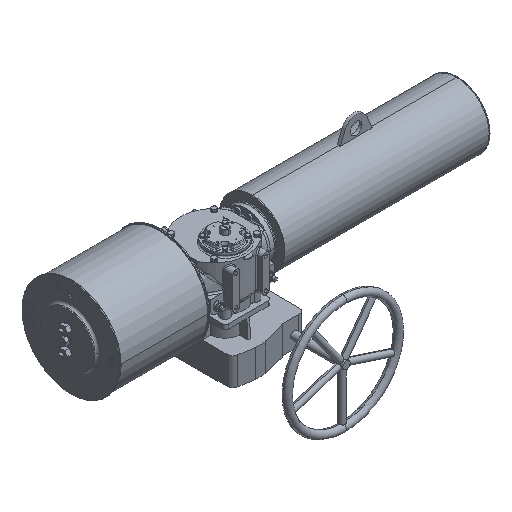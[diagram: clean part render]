
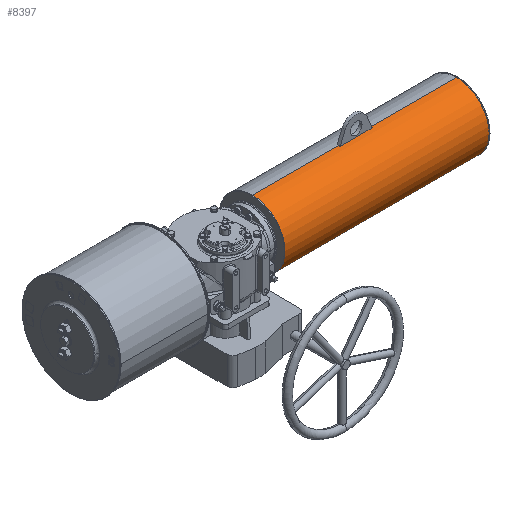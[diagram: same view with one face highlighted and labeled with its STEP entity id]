
A CAD part, isometric view. The second image highlights one B-rep face of the part: STEP entity #8397.
In plain terms, the highlighted cylindrical face has radius 109.5 mm (diameter 219 mm), a partial arc.
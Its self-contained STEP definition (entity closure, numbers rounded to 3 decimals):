
#428 = EDGE_LOOP ( 'NONE', ( #12345, #21108, #53958, #30284, #54234, #37797, #90213, #81079, #14311, #53254 ) ) ;
#3211 = DIRECTION ( 'NONE',  ( 1., 0., 0. ) ) ;
#3231 = EDGE_CURVE ( 'NONE', #22932, #83668, #87967, .T. ) ;
#5493 = LINE ( 'NONE', #13762, #77377 ) ;
#7117 = VERTEX_POINT ( 'NONE', #70453 ) ;
#7198 = CARTESIAN_POINT ( 'NONE',  ( 153., -87., 57.5 ) ) ;
#8397 = ADVANCED_FACE ( 'NONE', ( #12103 ), #40741, .T. ) ;
#9055 = CARTESIAN_POINT ( 'NONE',  ( 444., 17.5, 166.886 ) ) ;
#10733 = EDGE_CURVE ( 'NONE', #86969, #24581, #5493, .T. ) ;
#10925 = LINE ( 'NONE', #88439, #29662 ) ;
#11462 = CARTESIAN_POINT ( 'NONE',  ( 843., 22.5, -52. ) ) ;
#11653 = CARTESIAN_POINT ( 'NONE',  ( 839.5, 22.5, 57.5 ) ) ;
#12103 = FACE_OUTER_BOUND ( 'NONE', #428, .T. ) ;
#12345 = ORIENTED_EDGE ( 'NONE', *, *, #67583, .T. ) ;
#13762 = CARTESIAN_POINT ( 'NONE',  ( 839.5, 17.5, 166.886 ) ) ;
#14072 = EDGE_CURVE ( 'NONE', #66115, #89348, #45810, .T. ) ;
#14311 = ORIENTED_EDGE ( 'NONE', *, *, #62543, .T. ) ;
#14938 = CIRCLE ( 'NONE', #66548, 109.5 ) ;
#17111 = AXIS2_PLACEMENT_3D ( 'NONE', #56398, #62096, #60732 ) ;
#17275 = DIRECTION ( 'NONE',  ( -1., 0., 0. ) ) ;
#17544 = CARTESIAN_POINT ( 'NONE',  ( 552., 22.5, 57.5 ) ) ;
#18651 = DIRECTION ( 'NONE',  ( 0., 1., 0. ) ) ;
#19047 = DIRECTION ( 'NONE',  ( -1., 0., 0. ) ) ;
#20053 = DIRECTION ( 'NONE',  ( 0., 0., -1. ) ) ;
#21108 = ORIENTED_EDGE ( 'NONE', *, *, #3231, .T. ) ;
#22067 = CARTESIAN_POINT ( 'NONE',  ( 552., 17.5, 166.886 ) ) ;
#22932 = VERTEX_POINT ( 'NONE', #67963 ) ;
#23095 = EDGE_CURVE ( 'NONE', #7117, #86969, #50806, .T. ) ;
#24581 = VERTEX_POINT ( 'NONE', #9055 ) ;
#26981 = EDGE_CURVE ( 'NONE', #50463, #62910, #89643, .T. ) ;
#28253 = CARTESIAN_POINT ( 'NONE',  ( 839.5, 22.5, 167. ) ) ;
#28949 = CARTESIAN_POINT ( 'NONE',  ( 843., 22.5, 167. ) ) ;
#29662 = VECTOR ( 'NONE', #30788, 1000. ) ;
#30284 = ORIENTED_EDGE ( 'NONE', *, *, #23095, .T. ) ;
#30788 = DIRECTION ( 'NONE',  ( -1., 0., 0. ) ) ;
#34579 = AXIS2_PLACEMENT_3D ( 'NONE', #17544, #3211, #81222 ) ;
#36984 = AXIS2_PLACEMENT_3D ( 'NONE', #90464, #54080, #82208 ) ;
#37797 = ORIENTED_EDGE ( 'NONE', *, *, #54881, .T. ) ;
#40741 = CYLINDRICAL_SURFACE ( 'NONE', #67027, 109.5 ) ;
#44202 = CARTESIAN_POINT ( 'NONE',  ( 153., 22.5, 167. ) ) ;
#45157 = VECTOR ( 'NONE', #48594, 1000. ) ;
#45810 = CIRCLE ( 'NONE', #36984, 109.5 ) ;
#46347 = CARTESIAN_POINT ( 'NONE',  ( 444., 22.5, 57.5 ) ) ;
#47641 = DIRECTION ( 'NONE',  ( -1., 0., 0. ) ) ;
#48126 = CARTESIAN_POINT ( 'NONE',  ( 153., 22.5, 57.5 ) ) ;
#48594 = DIRECTION ( 'NONE',  ( -1., 0., 0. ) ) ;
#49763 = VERTEX_POINT ( 'NONE', #73221 ) ;
#50463 = VERTEX_POINT ( 'NONE', #11462 ) ;
#50806 = CIRCLE ( 'NONE', #34579, 109.5 ) ;
#53254 = ORIENTED_EDGE ( 'NONE', *, *, #26981, .F. ) ;
#53958 = ORIENTED_EDGE ( 'NONE', *, *, #84013, .T. ) ;
#54080 = DIRECTION ( 'NONE',  ( 1., 0., 0. ) ) ;
#54234 = ORIENTED_EDGE ( 'NONE', *, *, #10733, .T. ) ;
#54881 = EDGE_CURVE ( 'NONE', #24581, #49763, #67419, .T. ) ;
#56398 = CARTESIAN_POINT ( 'NONE',  ( 843., 22.5, 57.5 ) ) ;
#59364 = CARTESIAN_POINT ( 'NONE',  ( 153., 22.5, -52. ) ) ;
#60732 = DIRECTION ( 'NONE',  ( 0., 0., -1. ) ) ;
#61829 = DIRECTION ( 'NONE',  ( -1., 0., 0. ) ) ;
#62096 = DIRECTION ( 'NONE',  ( -1., 0., 0. ) ) ;
#62446 = LINE ( 'NONE', #28253, #45157 ) ;
#62543 = EDGE_CURVE ( 'NONE', #89348, #62910, #14938, .T. ) ;
#62910 = VERTEX_POINT ( 'NONE', #59364 ) ;
#66115 = VERTEX_POINT ( 'NONE', #44202 ) ;
#66548 = AXIS2_PLACEMENT_3D ( 'NONE', #48126, #74916, #68446 ) ;
#67027 = AXIS2_PLACEMENT_3D ( 'NONE', #11653, #47641, #82265 ) ;
#67419 = CIRCLE ( 'NONE', #74787, 109.5 ) ;
#67583 = EDGE_CURVE ( 'NONE', #50463, #22932, #71688, .T. ) ;
#67963 = CARTESIAN_POINT ( 'NONE',  ( 843., -87., 57.5 ) ) ;
#68446 = DIRECTION ( 'NONE',  ( 0., 0., -1. ) ) ;
#69988 = VECTOR ( 'NONE', #19047, 1000. ) ;
#70453 = CARTESIAN_POINT ( 'NONE',  ( 552., 22.5, 167. ) ) ;
#70536 = DIRECTION ( 'NONE',  ( -1., 0., 0. ) ) ;
#71688 = CIRCLE ( 'NONE', #17111, 109.5 ) ;
#71805 = AXIS2_PLACEMENT_3D ( 'NONE', #77448, #70536, #20053 ) ;
#72089 = EDGE_CURVE ( 'NONE', #49763, #66115, #10925, .T. ) ;
#73221 = CARTESIAN_POINT ( 'NONE',  ( 444., 22.5, 167. ) ) ;
#74787 = AXIS2_PLACEMENT_3D ( 'NONE', #46347, #17275, #18651 ) ;
#74916 = DIRECTION ( 'NONE',  ( 1., 0., 0. ) ) ;
#76288 = CARTESIAN_POINT ( 'NONE',  ( 839.5, 22.5, -52. ) ) ;
#77377 = VECTOR ( 'NONE', #61829, 1000. ) ;
#77448 = CARTESIAN_POINT ( 'NONE',  ( 843., 22.5, 57.5 ) ) ;
#81079 = ORIENTED_EDGE ( 'NONE', *, *, #14072, .T. ) ;
#81222 = DIRECTION ( 'NONE',  ( 0., -1., 0. ) ) ;
#82208 = DIRECTION ( 'NONE',  ( 0., 0., -1. ) ) ;
#82265 = DIRECTION ( 'NONE',  ( 0., 0., -1. ) ) ;
#83668 = VERTEX_POINT ( 'NONE', #28949 ) ;
#84013 = EDGE_CURVE ( 'NONE', #83668, #7117, #62446, .T. ) ;
#86969 = VERTEX_POINT ( 'NONE', #22067 ) ;
#87967 = CIRCLE ( 'NONE', #71805, 109.5 ) ;
#88439 = CARTESIAN_POINT ( 'NONE',  ( 839.5, 22.5, 167. ) ) ;
#89348 = VERTEX_POINT ( 'NONE', #7198 ) ;
#89643 = LINE ( 'NONE', #76288, #69988 ) ;
#90213 = ORIENTED_EDGE ( 'NONE', *, *, #72089, .T. ) ;
#90464 = CARTESIAN_POINT ( 'NONE',  ( 153., 22.5, 57.5 ) ) ;
